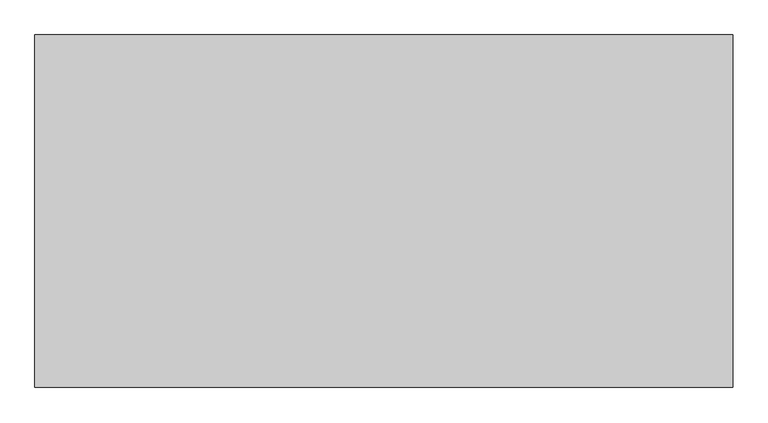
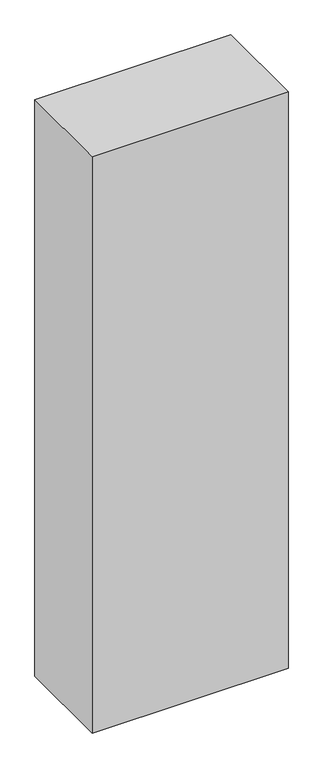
"""IFC4 building model written with IfcOpenShell, lengths in millimetres: proxy geometry."""

from ifc_helpers import new_model, si_unit, origin, origin_with_axes, place, context, project, spatial, polyline, outline, extrude, source, transform, mapped, element, save


def generic_models_6e5597c0(model_context):
    return source(origin(), model_context, "Body", "SweptSolid", [
        extrude(outline(polyline([(15631.6181917, -252.4), (14631.6181917, -252.4), (14631.6181917, 252.4), (15631.6181917, 252.4), (15631.6181917, -252.4)])), origin_with_axes(), (0.0, 0.0, 1.0), 3110.0),
    ])


if __name__ == "__main__":
    model = new_model("IFC4")
    model_context = context("Model", 3, world=origin())
    ifc_project = project(units=[si_unit("LENGTHUNIT", "METRE", prefix="MILLI")], contexts=[model_context])
    site = spatial("IfcSite", under=ifc_project)
    building = spatial("IfcBuilding", under=site)
    placement = place(None, origin())
    generic_models_shape = generic_models_6e5597c0(model_context)
    element("IfcBuildingElementProxy", 1, Name="Generic Models", at=placement, inside=building, context=model_context, shape_type="MappedRepresentation", body=[
        mapped(generic_models_shape, transform((0.0, 0.0, 0.0), x_axis=(1.0, 0.0, 0.0), y_axis=(0.0, 1.0, 0.0), z_axis=(0.0, 0.0, 1.0))),
    ])
    save(model, "model.ifc")
